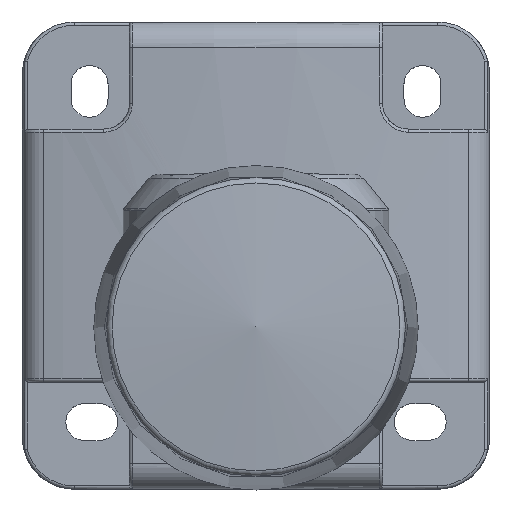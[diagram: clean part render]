
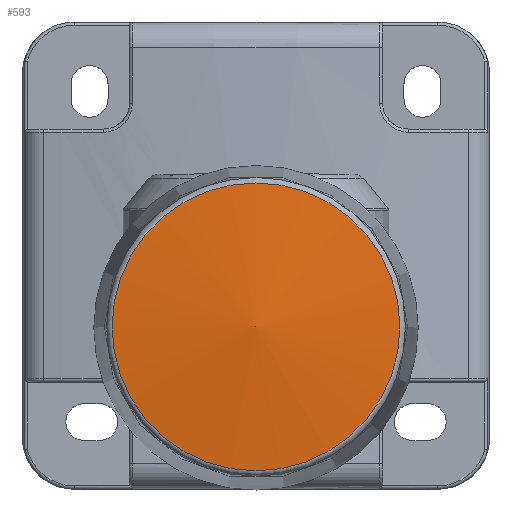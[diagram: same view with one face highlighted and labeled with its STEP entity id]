
A CAD part, top view. The second image highlights one B-rep face of the part: STEP entity #593.
In plain terms, the highlighted spherical face has radius 133.25 mm.
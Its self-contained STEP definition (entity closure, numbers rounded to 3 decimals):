
#593=ADVANCED_FACE('',(#1166),#1168,.T.);
#1166=FACE_OUTER_BOUND('',#1167,.T.);
#1167=EDGE_LOOP('',(#4796));
#1168=SPHERICAL_SURFACE('',#1169,133.25);
#1169=AXIS2_PLACEMENT_3D('',#1170,#1171,#1172);
#1170=CARTESIAN_POINT('',(0.,0.,-53.25));
#1171=DIRECTION('',(0.,0.,-1.));
#1172=DIRECTION('',(-1.,0.,0.));
#4796=ORIENTED_EDGE('',*,*,#5996,.F.);
#5996=EDGE_CURVE('',#6607,#6607,#6608,.T.);
#6607=VERTEX_POINT('',#7637);
#6608=CIRCLE('',#7638,22.188);
#7637=CARTESIAN_POINT('',(-22.188,0.,78.14));
#7638=AXIS2_PLACEMENT_3D('',#7639,#7640,#7641);
#7639=CARTESIAN_POINT('',(0.,0.,78.14));
#7640=DIRECTION('',(0.,0.,-1.));
#7641=DIRECTION('',(-1.,0.,0.));
